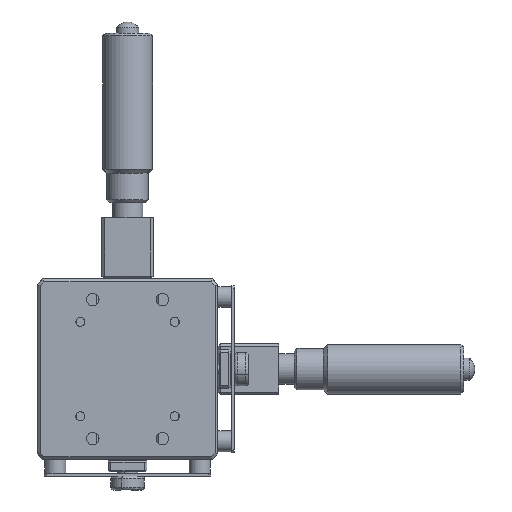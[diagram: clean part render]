
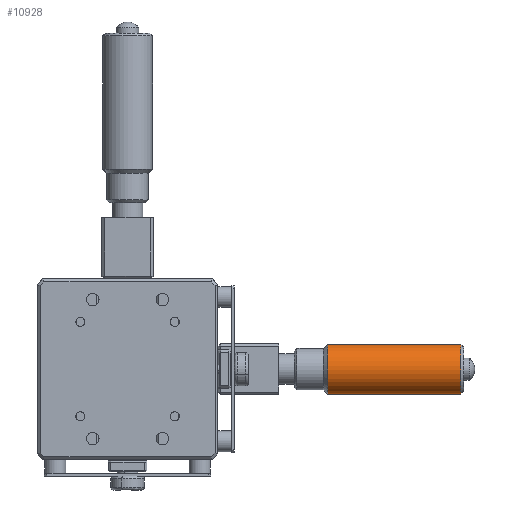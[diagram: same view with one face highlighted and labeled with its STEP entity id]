
A CAD part, front view. The second image highlights one B-rep face of the part: STEP entity #10928.
In plain terms, the highlighted cylindrical face has radius 9 mm (diameter 18 mm), a partial arc.
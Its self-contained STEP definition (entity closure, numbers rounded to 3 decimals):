
#895 = VERTEX_POINT ( 'NONE', #11705 ) ;
#932 = AXIS2_PLACEMENT_3D ( 'NONE', #5494, #3783, #6051 ) ;
#1554 = EDGE_CURVE ( 'NONE', #895, #2703, #6468, .T. ) ;
#2083 = EDGE_CURVE ( 'NONE', #895, #10534, #2742, .T. ) ;
#2469 = DIRECTION ( 'NONE',  ( 1., 0., 0. ) ) ;
#2703 = VERTEX_POINT ( 'NONE', #12576 ) ;
#2730 = DIRECTION ( 'NONE',  ( 0., 0., 1. ) ) ;
#2742 = CIRCLE ( 'NONE', #932, 9. ) ;
#3185 = DIRECTION ( 'NONE',  ( 0., 0., -1. ) ) ;
#3308 = ORIENTED_EDGE ( 'NONE', *, *, #8818, .T. ) ;
#3542 = AXIS2_PLACEMENT_3D ( 'NONE', #8620, #6571, #2469 ) ;
#3575 = CYLINDRICAL_SURFACE ( 'NONE', #3542, 9. ) ;
#3783 = DIRECTION ( 'NONE',  ( 0., 0., 1. ) ) ;
#5494 = CARTESIAN_POINT ( 'NONE',  ( 0., 14.813, 22.799 ) ) ;
#6008 = ORIENTED_EDGE ( 'NONE', *, *, #11848, .T. ) ;
#6051 = DIRECTION ( 'NONE',  ( 1., 0., 0. ) ) ;
#6186 = EDGE_LOOP ( 'NONE', ( #12402, #6477, #3308, #6008 ) ) ;
#6468 = LINE ( 'NONE', #12755, #11562 ) ;
#6477 = ORIENTED_EDGE ( 'NONE', *, *, #2083, .T. ) ;
#6571 = DIRECTION ( 'NONE',  ( 0., 0., 1. ) ) ;
#6926 = CIRCLE ( 'NONE', #9653, 9. ) ;
#7648 = DIRECTION ( 'NONE',  ( 0., 0., 1. ) ) ;
#8620 = CARTESIAN_POINT ( 'NONE',  ( 0., 14.813, 108.992 ) ) ;
#8818 = EDGE_CURVE ( 'NONE', #10534, #12329, #10361, .T. ) ;
#8884 = CARTESIAN_POINT ( 'NONE',  ( 9., 14.813, 108.992 ) ) ;
#9032 = FACE_OUTER_BOUND ( 'NONE', #6186, .T. ) ;
#9099 = CARTESIAN_POINT ( 'NONE',  ( 9., 14.813, 22.799 ) ) ;
#9314 = CARTESIAN_POINT ( 'NONE',  ( 0., 14.813, 70.799 ) ) ;
#9653 = AXIS2_PLACEMENT_3D ( 'NONE', #9314, #3185, #10342 ) ;
#10267 = CARTESIAN_POINT ( 'NONE',  ( 9., 14.813, 70.799 ) ) ;
#10342 = DIRECTION ( 'NONE',  ( -1., 0., 0. ) ) ;
#10361 = LINE ( 'NONE', #8884, #12737 ) ;
#10534 = VERTEX_POINT ( 'NONE', #9099 ) ;
#10928 = ADVANCED_FACE ( 'NONE', ( #9032 ), #3575, .T. ) ;
#11562 = VECTOR ( 'NONE', #7648, 1000. ) ;
#11705 = CARTESIAN_POINT ( 'NONE',  ( -9., 14.813, 22.799 ) ) ;
#11848 = EDGE_CURVE ( 'NONE', #12329, #2703, #6926, .T. ) ;
#12329 = VERTEX_POINT ( 'NONE', #10267 ) ;
#12402 = ORIENTED_EDGE ( 'NONE', *, *, #1554, .F. ) ;
#12576 = CARTESIAN_POINT ( 'NONE',  ( -9., 14.813, 70.799 ) ) ;
#12737 = VECTOR ( 'NONE', #2730, 1000. ) ;
#12755 = CARTESIAN_POINT ( 'NONE',  ( -9., 14.813, 108.992 ) ) ;
